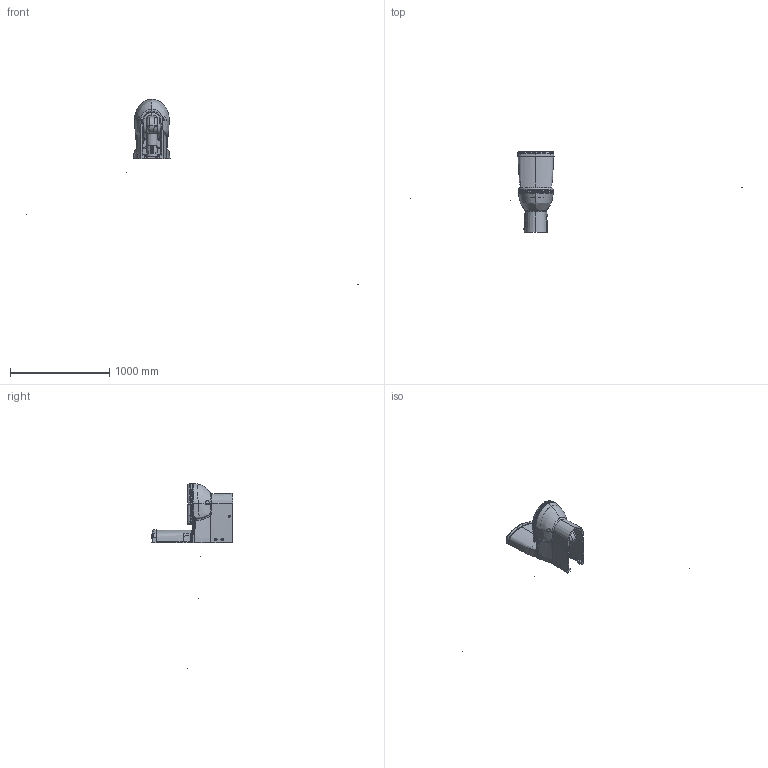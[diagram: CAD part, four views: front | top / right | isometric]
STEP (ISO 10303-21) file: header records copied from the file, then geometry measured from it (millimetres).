
FILE_DESCRIPTION (( 'STEP AP203' ), '1' );
FILE_NAME ('SD318-34CB00E-0001+SD420-00CB00E-0000+KC1303.01.0000E.STEP', '2022-06-13T07:44:30', ( '' ), ( '' ), 'SwSTEP 2.0', 'SolidWorks 2021', '' );
FILE_SCHEMA (( 'CONFIG_CONTROL_DESIGN' ));
Products named in the file (1): SD318-34CB00E-0001+SD420-00CB00E-0000+KC1303.01.0000E
Bounding box: 3342.89 x 815.82 x 1865.35 mm (x, y, z)
Volume: 18735853.4 mm3; surface area: 2995245 mm2
Topology: 73 solids, 74 shells, 3360 faces, 8388 edges, 5189 vertices
Faces by surface type: cylinder 1465, bspline 785, plane 611, torus 264, sphere 129, cone 106
Entity records: 550597 total; most frequent: CARTESIAN_POINT 480662, ORIENTED_EDGE 16534, DIRECTION 12022, EDGE_CURVE 8267, VERTEX_POINT 5165, AXIS2_PLACEMENT_3D 4714, EDGE_LOOP 3534, ADVANCED_FACE 3360
